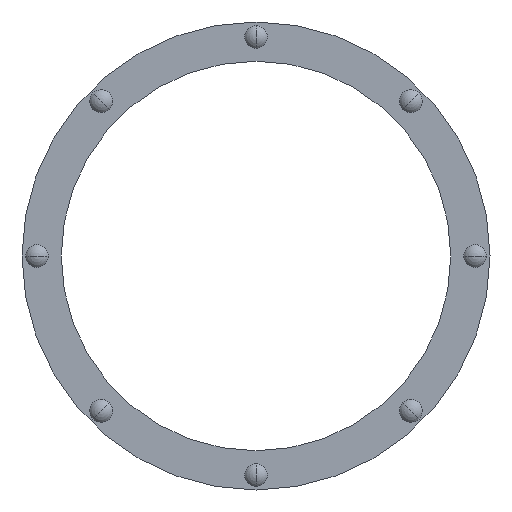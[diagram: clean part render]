
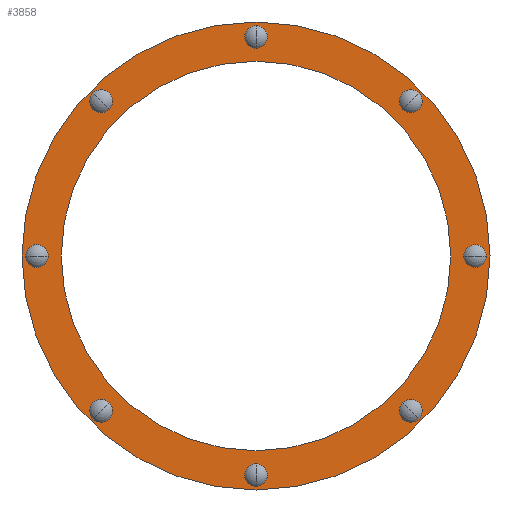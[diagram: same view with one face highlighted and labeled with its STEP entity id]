
A CAD part, front view. The second image highlights one B-rep face of the part: STEP entity #3858.
In plain terms, the highlighted planar face has unit normal (0, -1, 0).
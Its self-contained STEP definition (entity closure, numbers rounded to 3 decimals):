
#1223=CARTESIAN_POINT('',(-172.004,-92.,172.004));
#1224=DIRECTION('',(0.,1.,0.));
#1225=DIRECTION('',(-0.707,0.,0.707));
#1226=AXIS2_PLACEMENT_3D('',#1223,#1224,#1225);
#1228=CARTESIAN_POINT('',(-172.004,-92.,172.004));
#1229=DIRECTION('',(0.,1.,0.));
#1230=DIRECTION('',(0.707,0.,-0.707));
#1231=AXIS2_PLACEMENT_3D('',#1228,#1229,#1230);
#1233=CARTESIAN_POINT('',(0.,-92.,243.25));
#1234=DIRECTION('',(0.,1.,0.));
#1235=DIRECTION('',(0.,0.,1.));
#1236=AXIS2_PLACEMENT_3D('',#1233,#1234,#1235);
#1238=CARTESIAN_POINT('',(0.,-92.,243.25));
#1239=DIRECTION('',(0.,1.,0.));
#1240=DIRECTION('',(0.,0.,-1.));
#1241=AXIS2_PLACEMENT_3D('',#1238,#1239,#1240);
#1243=CARTESIAN_POINT('',(172.004,-92.,172.004));
#1244=DIRECTION('',(0.,1.,0.));
#1245=DIRECTION('',(0.707,0.,0.707));
#1246=AXIS2_PLACEMENT_3D('',#1243,#1244,#1245);
#1248=CARTESIAN_POINT('',(172.004,-92.,172.004));
#1249=DIRECTION('',(0.,1.,0.));
#1250=DIRECTION('',(-0.707,0.,-0.707));
#1251=AXIS2_PLACEMENT_3D('',#1248,#1249,#1250);
#1253=CARTESIAN_POINT('',(243.25,-92.,0.));
#1254=DIRECTION('',(0.,1.,0.));
#1255=DIRECTION('',(1.,0.,0.));
#1256=AXIS2_PLACEMENT_3D('',#1253,#1254,#1255);
#1258=CARTESIAN_POINT('',(243.25,-92.,0.));
#1259=DIRECTION('',(0.,1.,0.));
#1260=DIRECTION('',(-1.,0.,0.));
#1261=AXIS2_PLACEMENT_3D('',#1258,#1259,#1260);
#1263=CARTESIAN_POINT('',(172.004,-92.,-172.004));
#1264=DIRECTION('',(0.,1.,0.));
#1265=DIRECTION('',(0.707,0.,-0.707));
#1266=AXIS2_PLACEMENT_3D('',#1263,#1264,#1265);
#1268=CARTESIAN_POINT('',(172.004,-92.,-172.004));
#1269=DIRECTION('',(0.,1.,0.));
#1270=DIRECTION('',(-0.707,0.,0.707));
#1271=AXIS2_PLACEMENT_3D('',#1268,#1269,#1270);
#1273=CARTESIAN_POINT('',(0.,-92.,-243.25));
#1274=DIRECTION('',(0.,1.,0.));
#1275=DIRECTION('',(0.,0.,-1.));
#1276=AXIS2_PLACEMENT_3D('',#1273,#1274,#1275);
#1278=CARTESIAN_POINT('',(0.,-92.,-243.25));
#1279=DIRECTION('',(0.,1.,0.));
#1280=DIRECTION('',(0.,0.,1.));
#1281=AXIS2_PLACEMENT_3D('',#1278,#1279,#1280);
#1283=CARTESIAN_POINT('',(-172.004,-92.,-172.004));
#1284=DIRECTION('',(0.,1.,0.));
#1285=DIRECTION('',(-0.707,0.,-0.707));
#1286=AXIS2_PLACEMENT_3D('',#1283,#1284,#1285);
#1288=CARTESIAN_POINT('',(-172.004,-92.,-172.004));
#1289=DIRECTION('',(0.,1.,0.));
#1290=DIRECTION('',(0.707,0.,0.707));
#1291=AXIS2_PLACEMENT_3D('',#1288,#1289,#1290);
#1293=CARTESIAN_POINT('',(-243.25,-92.,0.));
#1294=DIRECTION('',(0.,1.,0.));
#1295=DIRECTION('',(-1.,0.,0.));
#1296=AXIS2_PLACEMENT_3D('',#1293,#1294,#1295);
#1298=CARTESIAN_POINT('',(-243.25,-92.,0.));
#1299=DIRECTION('',(0.,1.,0.));
#1300=DIRECTION('',(1.,0.,0.));
#1301=AXIS2_PLACEMENT_3D('',#1298,#1299,#1300);
#1303=CARTESIAN_POINT('',(0.,-92.,0.));
#1304=DIRECTION('',(0.,1.,0.));
#1305=DIRECTION('',(-0.5,0.,0.866));
#1306=AXIS2_PLACEMENT_3D('',#1303,#1304,#1305);
#1308=CARTESIAN_POINT('',(0.,-92.,0.));
#1309=DIRECTION('',(0.,1.,0.));
#1310=DIRECTION('',(-0.866,0.,0.5));
#1311=AXIS2_PLACEMENT_3D('',#1308,#1309,#1310);
#1321=CARTESIAN_POINT('',(0.,-92.,0.));
#1322=DIRECTION('',(0.,1.,0.));
#1323=DIRECTION('',(-0.5,0.,0.866));
#1324=AXIS2_PLACEMENT_3D('',#1321,#1322,#1323);
#1326=CARTESIAN_POINT('',(0.,-92.,0.));
#1327=DIRECTION('',(0.,1.,0.));
#1328=DIRECTION('',(-0.866,0.,0.5));
#1329=AXIS2_PLACEMENT_3D('',#1326,#1327,#1328);
#2712=CARTESIAN_POINT('',(-256.,-92.,0.));
#2713=CARTESIAN_POINT('',(-230.5,-92.,0.));
#2714=VERTEX_POINT('',#2712);
#2715=VERTEX_POINT('',#2713);
#2770=CARTESIAN_POINT('',(-181.019,-92.,-181.019));
#2771=CARTESIAN_POINT('',(-162.988,-92.,-162.988));
#2772=VERTEX_POINT('',#2770);
#2773=VERTEX_POINT('',#2771);
#2828=CARTESIAN_POINT('',(0.,-92.,-256.));
#2829=CARTESIAN_POINT('',(0.,-92.,-230.5));
#2830=VERTEX_POINT('',#2828);
#2831=VERTEX_POINT('',#2829);
#2886=CARTESIAN_POINT('',(181.019,-92.,-181.019));
#2887=CARTESIAN_POINT('',(162.988,-92.,-162.988));
#2888=VERTEX_POINT('',#2886);
#2889=VERTEX_POINT('',#2887);
#2944=CARTESIAN_POINT('',(256.,-92.,0.));
#2945=CARTESIAN_POINT('',(230.5,-92.,0.));
#2946=VERTEX_POINT('',#2944);
#2947=VERTEX_POINT('',#2945);
#3002=CARTESIAN_POINT('',(181.019,-92.,181.019));
#3003=CARTESIAN_POINT('',(162.988,-92.,162.988));
#3004=VERTEX_POINT('',#3002);
#3005=VERTEX_POINT('',#3003);
#3060=CARTESIAN_POINT('',(0.,-92.,256.));
#3061=CARTESIAN_POINT('',(0.,-92.,230.5));
#3062=VERTEX_POINT('',#3060);
#3063=VERTEX_POINT('',#3061);
#3118=CARTESIAN_POINT('',(-181.019,-92.,181.019));
#3119=CARTESIAN_POINT('',(-162.988,-92.,162.988));
#3120=VERTEX_POINT('',#3118);
#3121=VERTEX_POINT('',#3119);
#3134=CARTESIAN_POINT('',(-225.037,-92.,129.925));
#3135=VERTEX_POINT('',#3134);
#3136=CARTESIAN_POINT('',(-187.278,-92.,108.125));
#3138=VERTEX_POINT('',#3136);
#3162=CARTESIAN_POINT('',(-129.925,-92.,225.037));
#3163=VERTEX_POINT('',#3162);
#3164=CARTESIAN_POINT('',(-108.125,-92.,187.278));
#3166=VERTEX_POINT('',#3164);
#3795=CARTESIAN_POINT('',(0.,-92.,0.));
#3796=DIRECTION('',(0.,1.,0.));
#3797=DIRECTION('',(0.866,0.,0.5));
#3798=AXIS2_PLACEMENT_3D('',#3795,#3796,#3797);
#3799=PLANE('',#3798);
#3800=ORIENTED_EDGE('',*,*,#3774,.T.);
#3801=ORIENTED_EDGE('',*,*,#3790,.T.);
#3802=EDGE_LOOP('',(#3800,#3801));
#3803=FACE_OUTER_BOUND('',#3802,.F.);
#3805=ORIENTED_EDGE('',*,*,#3804,.F.);
#3807=ORIENTED_EDGE('',*,*,#3806,.F.);
#3808=EDGE_LOOP('',(#3805,#3807));
#3809=FACE_BOUND('',#3808,.F.);
#3811=ORIENTED_EDGE('',*,*,#3810,.F.);
#3813=ORIENTED_EDGE('',*,*,#3812,.F.);
#3814=EDGE_LOOP('',(#3811,#3813));
#3815=FACE_BOUND('',#3814,.F.);
#3817=ORIENTED_EDGE('',*,*,#3816,.F.);
#3819=ORIENTED_EDGE('',*,*,#3818,.F.);
#3820=EDGE_LOOP('',(#3817,#3819));
#3821=FACE_BOUND('',#3820,.F.);
#3823=ORIENTED_EDGE('',*,*,#3822,.F.);
#3825=ORIENTED_EDGE('',*,*,#3824,.F.);
#3826=EDGE_LOOP('',(#3823,#3825));
#3827=FACE_BOUND('',#3826,.F.);
#3829=ORIENTED_EDGE('',*,*,#3828,.F.);
#3831=ORIENTED_EDGE('',*,*,#3830,.F.);
#3832=EDGE_LOOP('',(#3829,#3831));
#3833=FACE_BOUND('',#3832,.F.);
#3835=ORIENTED_EDGE('',*,*,#3834,.F.);
#3837=ORIENTED_EDGE('',*,*,#3836,.F.);
#3838=EDGE_LOOP('',(#3835,#3837));
#3839=FACE_BOUND('',#3838,.F.);
#3841=ORIENTED_EDGE('',*,*,#3840,.F.);
#3843=ORIENTED_EDGE('',*,*,#3842,.F.);
#3844=EDGE_LOOP('',(#3841,#3843));
#3845=FACE_BOUND('',#3844,.F.);
#3847=ORIENTED_EDGE('',*,*,#3846,.F.);
#3849=ORIENTED_EDGE('',*,*,#3848,.F.);
#3850=EDGE_LOOP('',(#3847,#3849));
#3851=FACE_BOUND('',#3850,.F.);
#3853=ORIENTED_EDGE('',*,*,#3852,.F.);
#3855=ORIENTED_EDGE('',*,*,#3854,.F.);
#3856=EDGE_LOOP('',(#3853,#3855));
#3857=FACE_BOUND('',#3856,.F.);
#3858=ADVANCED_FACE('',(#3803,#3809,#3815,#3821,#3827,#3833,#3839,#3845,#3851,
#3857),#3799,.F.);
#1227=CIRCLE('',#1226,12.75);
#1232=CIRCLE('',#1231,12.75);
#1237=CIRCLE('',#1236,12.75);
#1242=CIRCLE('',#1241,12.75);
#1247=CIRCLE('',#1246,12.75);
#1252=CIRCLE('',#1251,12.75);
#1257=CIRCLE('',#1256,12.75);
#1262=CIRCLE('',#1261,12.75);
#1267=CIRCLE('',#1266,12.75);
#1272=CIRCLE('',#1271,12.75);
#1277=CIRCLE('',#1276,12.75);
#1282=CIRCLE('',#1281,12.75);
#1287=CIRCLE('',#1286,12.75);
#1292=CIRCLE('',#1291,12.75);
#1297=CIRCLE('',#1296,12.75);
#1302=CIRCLE('',#1301,12.75);
#1307=CIRCLE('',#1306,259.85);
#1312=CIRCLE('',#1311,259.85);
#1325=CIRCLE('',#1324,216.25);
#1330=CIRCLE('',#1329,216.25);
#3774=EDGE_CURVE('',#3163,#3135,#1307,.T.);
#3790=EDGE_CURVE('',#3135,#3163,#1312,.T.);
#3804=EDGE_CURVE('',#3120,#3121,#1227,.T.);
#3806=EDGE_CURVE('',#3121,#3120,#1232,.T.);
#3810=EDGE_CURVE('',#3062,#3063,#1237,.T.);
#3812=EDGE_CURVE('',#3063,#3062,#1242,.T.);
#3816=EDGE_CURVE('',#3004,#3005,#1247,.T.);
#3818=EDGE_CURVE('',#3005,#3004,#1252,.T.);
#3822=EDGE_CURVE('',#2946,#2947,#1257,.T.);
#3824=EDGE_CURVE('',#2947,#2946,#1262,.T.);
#3828=EDGE_CURVE('',#2888,#2889,#1267,.T.);
#3830=EDGE_CURVE('',#2889,#2888,#1272,.T.);
#3834=EDGE_CURVE('',#2830,#2831,#1277,.T.);
#3836=EDGE_CURVE('',#2831,#2830,#1282,.T.);
#3840=EDGE_CURVE('',#2772,#2773,#1287,.T.);
#3842=EDGE_CURVE('',#2773,#2772,#1292,.T.);
#3846=EDGE_CURVE('',#2714,#2715,#1297,.T.);
#3848=EDGE_CURVE('',#2715,#2714,#1302,.T.);
#3852=EDGE_CURVE('',#3166,#3138,#1325,.T.);
#3854=EDGE_CURVE('',#3138,#3166,#1330,.T.);
